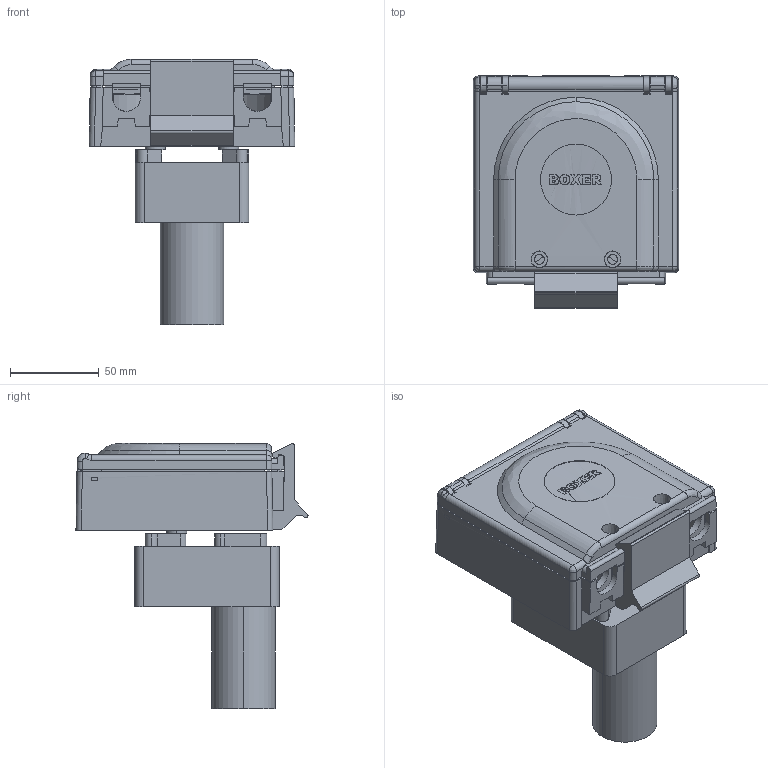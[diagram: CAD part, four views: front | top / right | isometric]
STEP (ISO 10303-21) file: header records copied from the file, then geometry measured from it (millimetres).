
FILE_DESCRIPTION (( 'STEP AP203' ), '1' );
FILE_NAME ('4K 241.STEP', '2016-01-09T08:36:56', ( '' ), ( '' ), 'SwSTEP 2.0', 'SolidWorks 2014', '' );
FILE_SCHEMA (( 'CONFIG_CONTROL_DESIGN' ));
Length unit declared in the file: metre
Products named in the file (1): 4K 241
Bounding box: 116 x 130.89 x 149.5 mm (x, y, z)
Surface area: 112416.1 mm2 (no closed solid volume)
Topology: 0 solids, 6 shells, 463 faces, 1770 edges, 1281 vertices
Faces by surface type: plane 269, cylinder 99, cone 61, bspline 34
Entity records: 29832 total; most frequent: CARTESIAN_POINT 16442, ORIENTED_EDGE 2872, DIRECTION 2145, EDGE_CURVE 1767, VERTEX_POINT 1281, LINE 967, VECTOR 967, B_SPLINE_CURVE_WITH_KNOTS 637
